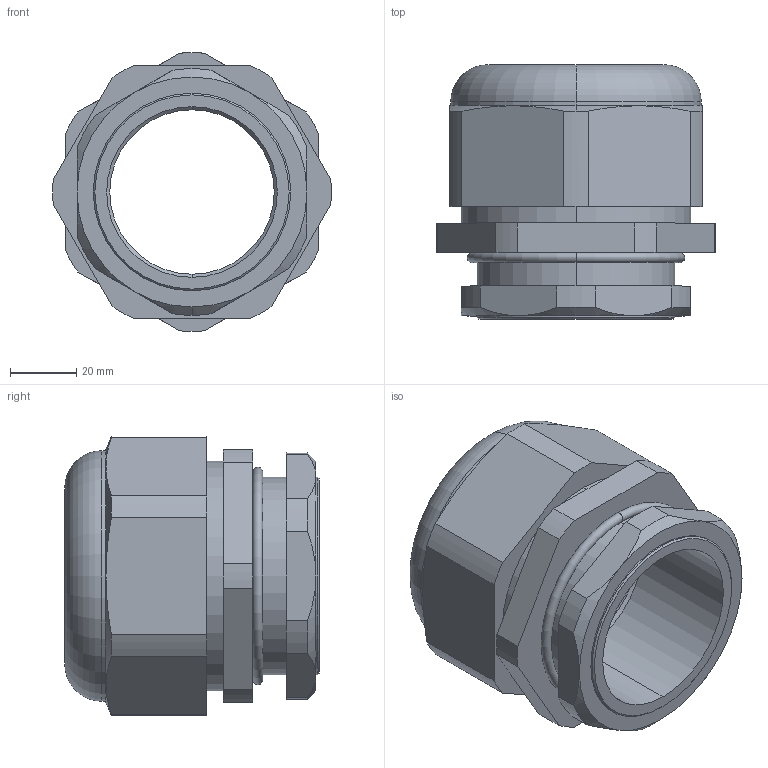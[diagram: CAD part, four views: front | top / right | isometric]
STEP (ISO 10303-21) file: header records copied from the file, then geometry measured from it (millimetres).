
FILE_DESCRIPTION (( 'STEP AP203' ), '1' );
FILE_NAME ('CH-B2.STEP', '2018-02-07T14:49:58', ( '' ), ( '' ), 'SwSTEP 2.0', 'SolidWorks 2012', '' );
FILE_SCHEMA (( 'CONFIG_CONTROL_DESIGN' ));
Length unit declared in the file: millimetre
Products named in the file (1): CH-B2
Bounding box: 84.06 x 76.8 x 84.1 mm (x, y, z)
Volume: 178884.4 mm3; surface area: 40721.4 mm2
Topology: 1 solids, 1 shells, 78 faces, 189 edges, 118 vertices
Faces by surface type: cylinder 34, plane 25, cone 15, torus 4
Entity records: 2474 total; most frequent: CARTESIAN_POINT 528, DIRECTION 415, ORIENTED_EDGE 378, EDGE_CURVE 189, AXIS2_PLACEMENT_3D 165, VERTEX_POINT 118, CIRCLE 86, VECTOR 85
